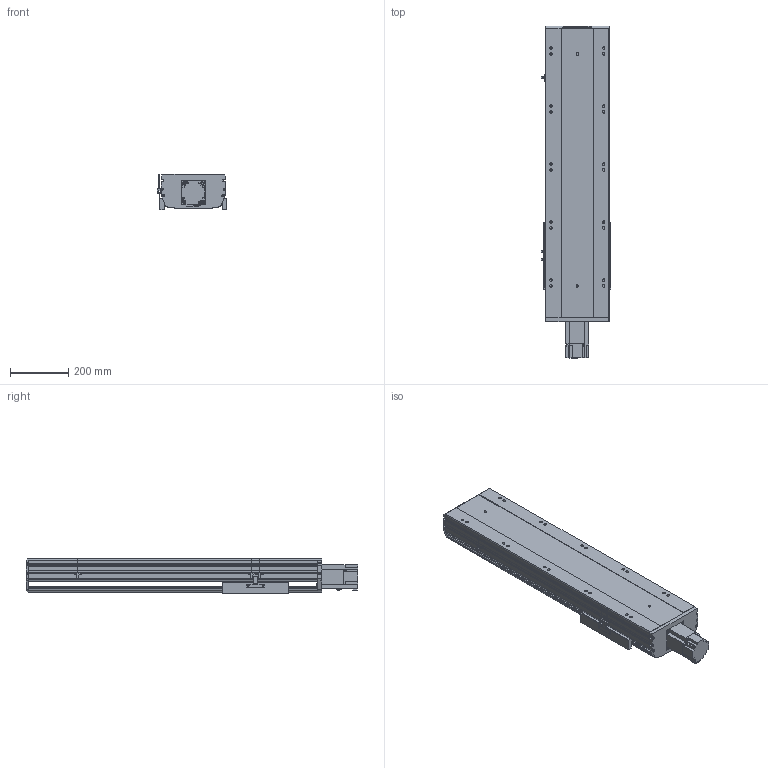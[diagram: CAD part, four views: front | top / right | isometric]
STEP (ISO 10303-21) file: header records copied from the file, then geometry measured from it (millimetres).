
FILE_DESCRIPTION (( 'STEP AP203' ), '1' );
FILE_NAME ('12.STEP', '2020-11-23T01:52:49', ( '' ), ( '' ), 'SwSTEP 2.0', 'SolidWorks 2016', '' );
FILE_SCHEMA (( 'CONFIG_CONTROL_DESIGN' ));
Length unit declared in the file: millimetre
Products named in the file (7): BTH22-BC-02; 12; BTH22-BC-04; BTH22-BC-菁釱; BTH22-BC-T75; BTH22-BC-HZ; BTH22-BC-01
Assembly tree (8 placements, depth 2):
  12
    BTH22-BC-菁釱
    BTH22-BC-01
    BTH22-BC-02
    BTH22-BC-04  x3
    BTH22-BC-HZ
    BTH22-BC-T75
Bounding box: 238.7 x 1144.3 x 122.7 mm (x, y, z)
Volume: 13802053.9 mm3; surface area: 1702085.3 mm2
Topology: 10 solids, 10 shells, 945 faces, 2660 edges, 1741 vertices
Faces by surface type: plane 525, cylinder 382, cone 38
Entity records: 27811 total; most frequent: CARTESIAN_POINT 5349, ORIENTED_EDGE 4564, DIRECTION 4552, EDGE_CURVE 2282, AXIS2_PLACEMENT_3D 1528, VERTEX_POINT 1509, LINE 1496, VECTOR 1496
